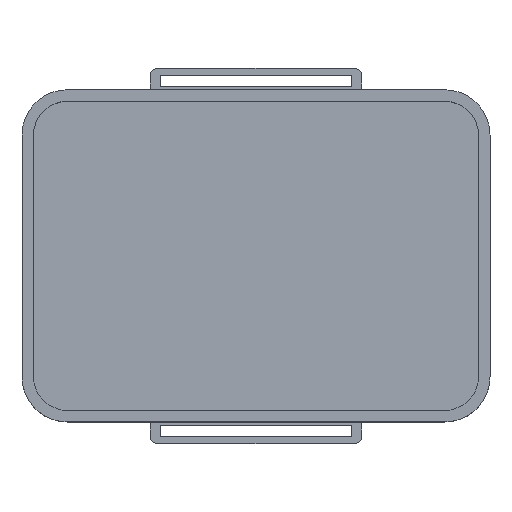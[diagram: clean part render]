
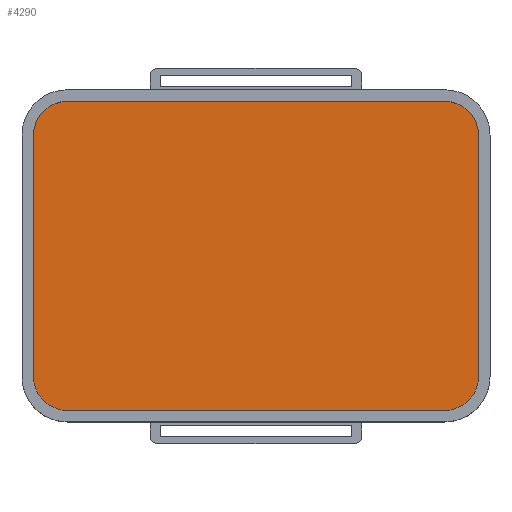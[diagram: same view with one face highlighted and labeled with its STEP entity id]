
A CAD part, top view. The second image highlights one B-rep face of the part: STEP entity #4290.
In plain terms, the highlighted planar face has unit normal (0, 0, 1).
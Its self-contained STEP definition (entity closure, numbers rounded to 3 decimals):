
#632 = CYLINDRICAL_SURFACE('',#633,4.6);
#633 = AXIS2_PLACEMENT_3D('',#634,#635,#636);
#634 = CARTESIAN_POINT('',(-24.9,-15.9,2.));
#635 = DIRECTION('',(0.,0.,1.));
#636 = DIRECTION('',(-1.,-0.,0.));
#659 = PLANE('',#660);
#660 = AXIS2_PLACEMENT_3D('',#661,#662,#663);
#661 = CARTESIAN_POINT('',(-29.5,-20.5,2.));
#662 = DIRECTION('',(1.,0.,0.));
#663 = DIRECTION('',(0.,0.,1.));
#687 = CYLINDRICAL_SURFACE('',#688,4.6);
#688 = AXIS2_PLACEMENT_3D('',#689,#690,#691);
#689 = CARTESIAN_POINT('',(-24.9,15.9,2.));
#690 = DIRECTION('',(0.,0.,1.));
#691 = DIRECTION('',(-1.,-0.,0.));
#714 = PLANE('',#715);
#715 = AXIS2_PLACEMENT_3D('',#716,#717,#718);
#716 = CARTESIAN_POINT('',(-29.5,20.5,2.));
#717 = DIRECTION('',(0.,1.,0.));
#718 = DIRECTION('',(0.,0.,1.));
#742 = CYLINDRICAL_SURFACE('',#743,4.6);
#743 = AXIS2_PLACEMENT_3D('',#744,#745,#746);
#744 = CARTESIAN_POINT('',(24.9,15.9,2.));
#745 = DIRECTION('',(0.,0.,1.));
#746 = DIRECTION('',(1.,0.,-0.));
#769 = PLANE('',#770);
#770 = AXIS2_PLACEMENT_3D('',#771,#772,#773);
#771 = CARTESIAN_POINT('',(29.5,-20.5,2.));
#772 = DIRECTION('',(1.,0.,0.));
#773 = DIRECTION('',(0.,0.,1.));
#797 = CYLINDRICAL_SURFACE('',#798,4.6);
#798 = AXIS2_PLACEMENT_3D('',#799,#800,#801);
#799 = CARTESIAN_POINT('',(24.9,-15.9,2.));
#800 = DIRECTION('',(0.,0.,1.));
#801 = DIRECTION('',(1.,0.,-0.));
#822 = PLANE('',#823);
#823 = AXIS2_PLACEMENT_3D('',#824,#825,#826);
#824 = CARTESIAN_POINT('',(-29.5,-20.5,2.));
#825 = DIRECTION('',(0.,1.,0.));
#826 = DIRECTION('',(0.,0.,1.));
#2588 = VERTEX_POINT('',#2589);
#2589 = CARTESIAN_POINT('',(-29.5,-15.9,2.));
#2610 = EDGE_CURVE('',#2588,#2611,#2613,.T.);
#2611 = VERTEX_POINT('',#2612);
#2612 = CARTESIAN_POINT('',(-24.9,-20.5,2.));
#2613 = SURFACE_CURVE('',#2614,(#2619,#2626),.PCURVE_S1.);
#2614 = CIRCLE('',#2615,4.6);
#2615 = AXIS2_PLACEMENT_3D('',#2616,#2617,#2618);
#2616 = CARTESIAN_POINT('',(-24.9,-15.9,2.));
#2617 = DIRECTION('',(0.,0.,1.));
#2618 = DIRECTION('',(0.,-1.,0.));
#2619 = PCURVE('',#632,#2620);
#2620 = DEFINITIONAL_REPRESENTATION('',(#2621),#2625);
#2621 = LINE('',#2622,#2623);
#2622 = CARTESIAN_POINT('',(-4.712,0.));
#2623 = VECTOR('',#2624,1.);
#2624 = DIRECTION('',(1.,0.));
#2625 = ( GEOMETRIC_REPRESENTATION_CONTEXT(2) 
PARAMETRIC_REPRESENTATION_CONTEXT() REPRESENTATION_CONTEXT('2D SPACE',''
  ) );
#2626 = PCURVE('',#2627,#2632);
#2627 = PLANE('',#2628);
#2628 = AXIS2_PLACEMENT_3D('',#2629,#2630,#2631);
#2629 = CARTESIAN_POINT('',(-29.5,-20.5,2.));
#2630 = DIRECTION('',(0.,0.,1.));
#2631 = DIRECTION('',(1.,0.,0.));
#2632 = DEFINITIONAL_REPRESENTATION('',(#2633),#2637);
#2633 = CIRCLE('',#2634,4.6);
#2634 = AXIS2_PLACEMENT_2D('',#2635,#2636);
#2635 = CARTESIAN_POINT('',(4.6,4.6));
#2636 = DIRECTION('',(0.,-1.));
#2637 = ( GEOMETRIC_REPRESENTATION_CONTEXT(2) 
PARAMETRIC_REPRESENTATION_CONTEXT() REPRESENTATION_CONTEXT('2D SPACE',''
  ) );
#2664 = EDGE_CURVE('',#2611,#2665,#2667,.T.);
#2665 = VERTEX_POINT('',#2666);
#2666 = CARTESIAN_POINT('',(24.9,-20.5,2.));
#2667 = SURFACE_CURVE('',#2668,(#2672,#2679),.PCURVE_S1.);
#2668 = LINE('',#2669,#2670);
#2669 = CARTESIAN_POINT('',(-29.5,-20.5,2.));
#2670 = VECTOR('',#2671,1.);
#2671 = DIRECTION('',(1.,0.,0.));
#2672 = PCURVE('',#822,#2673);
#2673 = DEFINITIONAL_REPRESENTATION('',(#2674),#2678);
#2674 = LINE('',#2675,#2676);
#2675 = CARTESIAN_POINT('',(0.,0.));
#2676 = VECTOR('',#2677,1.);
#2677 = DIRECTION('',(0.,1.));
#2678 = ( GEOMETRIC_REPRESENTATION_CONTEXT(2) 
PARAMETRIC_REPRESENTATION_CONTEXT() REPRESENTATION_CONTEXT('2D SPACE',''
  ) );
#2679 = PCURVE('',#2627,#2680);
#2680 = DEFINITIONAL_REPRESENTATION('',(#2681),#2685);
#2681 = LINE('',#2682,#2683);
#2682 = CARTESIAN_POINT('',(0.,0.));
#2683 = VECTOR('',#2684,1.);
#2684 = DIRECTION('',(1.,0.));
#2685 = ( GEOMETRIC_REPRESENTATION_CONTEXT(2) 
PARAMETRIC_REPRESENTATION_CONTEXT() REPRESENTATION_CONTEXT('2D SPACE',''
  ) );
#2714 = VERTEX_POINT('',#2715);
#2715 = CARTESIAN_POINT('',(29.5,-15.9,2.));
#2736 = EDGE_CURVE('',#2714,#2665,#2737,.T.);
#2737 = SURFACE_CURVE('',#2738,(#2743,#2750),.PCURVE_S1.);
#2738 = CIRCLE('',#2739,4.6);
#2739 = AXIS2_PLACEMENT_3D('',#2740,#2741,#2742);
#2740 = CARTESIAN_POINT('',(24.9,-15.9,2.));
#2741 = DIRECTION('',(-0.,-0.,-1.));
#2742 = DIRECTION('',(0.,-1.,0.));
#2743 = PCURVE('',#797,#2744);
#2744 = DEFINITIONAL_REPRESENTATION('',(#2745),#2749);
#2745 = LINE('',#2746,#2747);
#2746 = CARTESIAN_POINT('',(4.712,-0.));
#2747 = VECTOR('',#2748,1.);
#2748 = DIRECTION('',(-1.,0.));
#2749 = ( GEOMETRIC_REPRESENTATION_CONTEXT(2) 
PARAMETRIC_REPRESENTATION_CONTEXT() REPRESENTATION_CONTEXT('2D SPACE',''
  ) );
#2750 = PCURVE('',#2627,#2751);
#2751 = DEFINITIONAL_REPRESENTATION('',(#2752),#2760);
#2752 = ( BOUNDED_CURVE() B_SPLINE_CURVE(2,(#2753,#2754,#2755,#2756,
#2757,#2758,#2759),.UNSPECIFIED.,.T.,.F.) B_SPLINE_CURVE_WITH_KNOTS((1,2
    ,2,2,2,1),(-2.094,0.,2.094,4.189,
6.283,8.378),.UNSPECIFIED.) CURVE() 
GEOMETRIC_REPRESENTATION_ITEM() RATIONAL_B_SPLINE_CURVE((1.,0.5,1.,0.5,
1.,0.5,1.)) REPRESENTATION_ITEM('') );
#2753 = CARTESIAN_POINT('',(54.4,0.));
#2754 = CARTESIAN_POINT('',(46.433,0.));
#2755 = CARTESIAN_POINT('',(50.416,6.9));
#2756 = CARTESIAN_POINT('',(54.4,13.8));
#2757 = CARTESIAN_POINT('',(58.384,6.9));
#2758 = CARTESIAN_POINT('',(62.367,0.));
#2759 = CARTESIAN_POINT('',(54.4,0.));
#2760 = ( GEOMETRIC_REPRESENTATION_CONTEXT(2) 
PARAMETRIC_REPRESENTATION_CONTEXT() REPRESENTATION_CONTEXT('2D SPACE',''
  ) );
#2769 = EDGE_CURVE('',#2714,#2770,#2772,.T.);
#2770 = VERTEX_POINT('',#2771);
#2771 = CARTESIAN_POINT('',(29.5,15.9,2.));
#2772 = SURFACE_CURVE('',#2773,(#2777,#2784),.PCURVE_S1.);
#2773 = LINE('',#2774,#2775);
#2774 = CARTESIAN_POINT('',(29.5,-20.5,2.));
#2775 = VECTOR('',#2776,1.);
#2776 = DIRECTION('',(0.,1.,0.));
#2777 = PCURVE('',#769,#2778);
#2778 = DEFINITIONAL_REPRESENTATION('',(#2779),#2783);
#2779 = LINE('',#2780,#2781);
#2780 = CARTESIAN_POINT('',(0.,0.));
#2781 = VECTOR('',#2782,1.);
#2782 = DIRECTION('',(0.,-1.));
#2783 = ( GEOMETRIC_REPRESENTATION_CONTEXT(2) 
PARAMETRIC_REPRESENTATION_CONTEXT() REPRESENTATION_CONTEXT('2D SPACE',''
  ) );
#2784 = PCURVE('',#2627,#2785);
#2785 = DEFINITIONAL_REPRESENTATION('',(#2786),#2790);
#2786 = LINE('',#2787,#2788);
#2787 = CARTESIAN_POINT('',(59.,0.));
#2788 = VECTOR('',#2789,1.);
#2789 = DIRECTION('',(0.,1.));
#2790 = ( GEOMETRIC_REPRESENTATION_CONTEXT(2) 
PARAMETRIC_REPRESENTATION_CONTEXT() REPRESENTATION_CONTEXT('2D SPACE',''
  ) );
#2903 = EDGE_CURVE('',#2770,#2904,#2906,.T.);
#2904 = VERTEX_POINT('',#2905);
#2905 = CARTESIAN_POINT('',(24.9,20.5,2.));
#2906 = SURFACE_CURVE('',#2907,(#2912,#2919),.PCURVE_S1.);
#2907 = CIRCLE('',#2908,4.6);
#2908 = AXIS2_PLACEMENT_3D('',#2909,#2910,#2911);
#2909 = CARTESIAN_POINT('',(24.9,15.9,2.));
#2910 = DIRECTION('',(0.,0.,1.));
#2911 = DIRECTION('',(0.,-1.,0.));
#2912 = PCURVE('',#742,#2913);
#2913 = DEFINITIONAL_REPRESENTATION('',(#2914),#2918);
#2914 = LINE('',#2915,#2916);
#2915 = CARTESIAN_POINT('',(-1.571,0.));
#2916 = VECTOR('',#2917,1.);
#2917 = DIRECTION('',(1.,0.));
#2918 = ( GEOMETRIC_REPRESENTATION_CONTEXT(2) 
PARAMETRIC_REPRESENTATION_CONTEXT() REPRESENTATION_CONTEXT('2D SPACE',''
  ) );
#2919 = PCURVE('',#2627,#2920);
#2920 = DEFINITIONAL_REPRESENTATION('',(#2921),#2925);
#2921 = CIRCLE('',#2922,4.6);
#2922 = AXIS2_PLACEMENT_2D('',#2923,#2924);
#2923 = CARTESIAN_POINT('',(54.4,36.4));
#2924 = DIRECTION('',(0.,-1.));
#2925 = ( GEOMETRIC_REPRESENTATION_CONTEXT(2) 
PARAMETRIC_REPRESENTATION_CONTEXT() REPRESENTATION_CONTEXT('2D SPACE',''
  ) );
#2952 = EDGE_CURVE('',#2953,#2904,#2955,.T.);
#2953 = VERTEX_POINT('',#2954);
#2954 = CARTESIAN_POINT('',(-24.9,20.5,2.));
#2955 = SURFACE_CURVE('',#2956,(#2960,#2967),.PCURVE_S1.);
#2956 = LINE('',#2957,#2958);
#2957 = CARTESIAN_POINT('',(-29.5,20.5,2.));
#2958 = VECTOR('',#2959,1.);
#2959 = DIRECTION('',(1.,0.,0.));
#2960 = PCURVE('',#714,#2961);
#2961 = DEFINITIONAL_REPRESENTATION('',(#2962),#2966);
#2962 = LINE('',#2963,#2964);
#2963 = CARTESIAN_POINT('',(0.,0.));
#2964 = VECTOR('',#2965,1.);
#2965 = DIRECTION('',(0.,1.));
#2966 = ( GEOMETRIC_REPRESENTATION_CONTEXT(2) 
PARAMETRIC_REPRESENTATION_CONTEXT() REPRESENTATION_CONTEXT('2D SPACE',''
  ) );
#2967 = PCURVE('',#2627,#2968);
#2968 = DEFINITIONAL_REPRESENTATION('',(#2969),#2973);
#2969 = LINE('',#2970,#2971);
#2970 = CARTESIAN_POINT('',(0.,41.));
#2971 = VECTOR('',#2972,1.);
#2972 = DIRECTION('',(1.,0.));
#2973 = ( GEOMETRIC_REPRESENTATION_CONTEXT(2) 
PARAMETRIC_REPRESENTATION_CONTEXT() REPRESENTATION_CONTEXT('2D SPACE',''
  ) );
#3002 = VERTEX_POINT('',#3003);
#3003 = CARTESIAN_POINT('',(-29.5,15.9,2.));
#3024 = EDGE_CURVE('',#3002,#2953,#3025,.T.);
#3025 = SURFACE_CURVE('',#3026,(#3031,#3038),.PCURVE_S1.);
#3026 = CIRCLE('',#3027,4.6);
#3027 = AXIS2_PLACEMENT_3D('',#3028,#3029,#3030);
#3028 = CARTESIAN_POINT('',(-24.9,15.9,2.));
#3029 = DIRECTION('',(-0.,-0.,-1.));
#3030 = DIRECTION('',(0.,-1.,0.));
#3031 = PCURVE('',#687,#3032);
#3032 = DEFINITIONAL_REPRESENTATION('',(#3033),#3037);
#3033 = LINE('',#3034,#3035);
#3034 = CARTESIAN_POINT('',(1.571,-0.));
#3035 = VECTOR('',#3036,1.);
#3036 = DIRECTION('',(-1.,0.));
#3037 = ( GEOMETRIC_REPRESENTATION_CONTEXT(2) 
PARAMETRIC_REPRESENTATION_CONTEXT() REPRESENTATION_CONTEXT('2D SPACE',''
  ) );
#3038 = PCURVE('',#2627,#3039);
#3039 = DEFINITIONAL_REPRESENTATION('',(#3040),#3048);
#3040 = ( BOUNDED_CURVE() B_SPLINE_CURVE(2,(#3041,#3042,#3043,#3044,
#3045,#3046,#3047),.UNSPECIFIED.,.T.,.F.) B_SPLINE_CURVE_WITH_KNOTS((1,2
    ,2,2,2,1),(-2.094,0.,2.094,4.189,
6.283,8.378),.UNSPECIFIED.) CURVE() 
GEOMETRIC_REPRESENTATION_ITEM() RATIONAL_B_SPLINE_CURVE((1.,0.5,1.,0.5,
1.,0.5,1.)) REPRESENTATION_ITEM('') );
#3041 = CARTESIAN_POINT('',(4.6,31.8));
#3042 = CARTESIAN_POINT('',(-3.367,31.8));
#3043 = CARTESIAN_POINT('',(0.616,38.7));
#3044 = CARTESIAN_POINT('',(4.6,45.6));
#3045 = CARTESIAN_POINT('',(8.584,38.7));
#3046 = CARTESIAN_POINT('',(12.567,31.8));
#3047 = CARTESIAN_POINT('',(4.6,31.8));
#3048 = ( GEOMETRIC_REPRESENTATION_CONTEXT(2) 
PARAMETRIC_REPRESENTATION_CONTEXT() REPRESENTATION_CONTEXT('2D SPACE',''
  ) );
#3057 = EDGE_CURVE('',#2588,#3002,#3058,.T.);
#3058 = SURFACE_CURVE('',#3059,(#3063,#3070),.PCURVE_S1.);
#3059 = LINE('',#3060,#3061);
#3060 = CARTESIAN_POINT('',(-29.5,-20.5,2.));
#3061 = VECTOR('',#3062,1.);
#3062 = DIRECTION('',(0.,1.,0.));
#3063 = PCURVE('',#659,#3064);
#3064 = DEFINITIONAL_REPRESENTATION('',(#3065),#3069);
#3065 = LINE('',#3066,#3067);
#3066 = CARTESIAN_POINT('',(0.,0.));
#3067 = VECTOR('',#3068,1.);
#3068 = DIRECTION('',(0.,-1.));
#3069 = ( GEOMETRIC_REPRESENTATION_CONTEXT(2) 
PARAMETRIC_REPRESENTATION_CONTEXT() REPRESENTATION_CONTEXT('2D SPACE',''
  ) );
#3070 = PCURVE('',#2627,#3071);
#3071 = DEFINITIONAL_REPRESENTATION('',(#3072),#3076);
#3072 = LINE('',#3073,#3074);
#3073 = CARTESIAN_POINT('',(0.,0.));
#3074 = VECTOR('',#3075,1.);
#3075 = DIRECTION('',(0.,1.));
#3076 = ( GEOMETRIC_REPRESENTATION_CONTEXT(2) 
PARAMETRIC_REPRESENTATION_CONTEXT() REPRESENTATION_CONTEXT('2D SPACE',''
  ) );
#4290 = ADVANCED_FACE('',(#4291),#2627,.T.);
#4291 = FACE_BOUND('',#4292,.T.);
#4292 = EDGE_LOOP('',(#4293,#4294,#4295,#4296,#4297,#4298,#4299,#4300));
#4293 = ORIENTED_EDGE('',*,*,#3057,.F.);
#4294 = ORIENTED_EDGE('',*,*,#2610,.T.);
#4295 = ORIENTED_EDGE('',*,*,#2664,.T.);
#4296 = ORIENTED_EDGE('',*,*,#2736,.F.);
#4297 = ORIENTED_EDGE('',*,*,#2769,.T.);
#4298 = ORIENTED_EDGE('',*,*,#2903,.T.);
#4299 = ORIENTED_EDGE('',*,*,#2952,.F.);
#4300 = ORIENTED_EDGE('',*,*,#3024,.F.);
